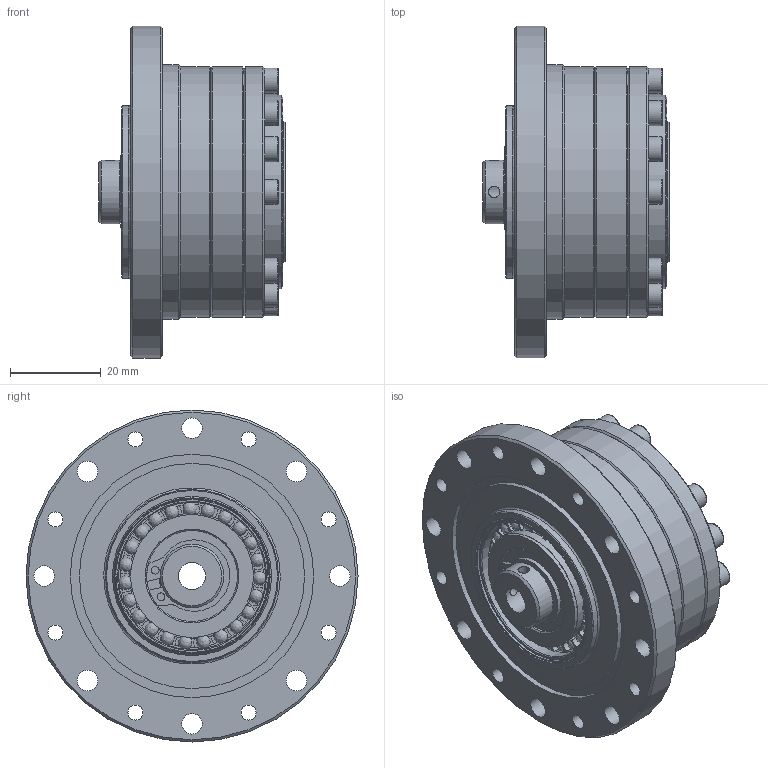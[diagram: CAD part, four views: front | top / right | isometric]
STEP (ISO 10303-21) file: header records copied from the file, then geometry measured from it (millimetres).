
FILE_DESCRIPTION (( 'STEP AP203' ), '1' );
FILE_NAME ('LCSG-14-XXX-C-II.STEP', '2025-01-20T01:48:29', ( '' ), ( '' ), 'SwSTEP 2.0', 'SolidWorks 2023', '' );
FILE_SCHEMA (( 'CONFIG_CONTROL_DESIGN' ));
Length unit declared in the file: metre
Products named in the file (1): LCSG-14-XXX-C-II
Bounding box: 41 x 73 x 73 mm (x, y, z)
Volume: 70469.4 mm3; surface area: 57199.2 mm2
Topology: 56 solids, 56 shells, 811 faces, 1978 edges, 1279 vertices
Faces by surface type: plane 412, cylinder 235, bspline 84, cone 80
Full cylindrical faces by diameter (mm): 1.7 x2, 2.5 x14, 3 x12, 3.3 x20, 3.5 x20, 4 x6, 4.5 x20, 5.5 x12, 6 x1, 7 x6, 8 x1, 11 x3, 13 x1, 14 x2, 14.5 x3, 17.7 x2, 20 x1, 22 x2, 23 x1, 24 x3, 25 x1, 25.07 x1, 26.707 x2, 27 x1, 27.6 x2, 29.2 x1, 30 x1, 30.5 x1, 31 x1, 31.4 x1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
Entity records: 25712 total; most frequent: CARTESIAN_POINT 8778, DIRECTION 3542, ORIENTED_EDGE 2950, EDGE_CURVE 1475, AXIS2_PLACEMENT_3D 1463, EDGE_LOOP 1316, VERTEX_POINT 1117, FACE_OUTER_BOUND 1026
